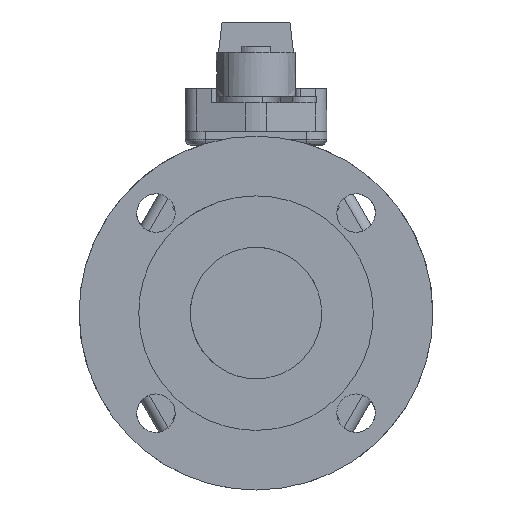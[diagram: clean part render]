
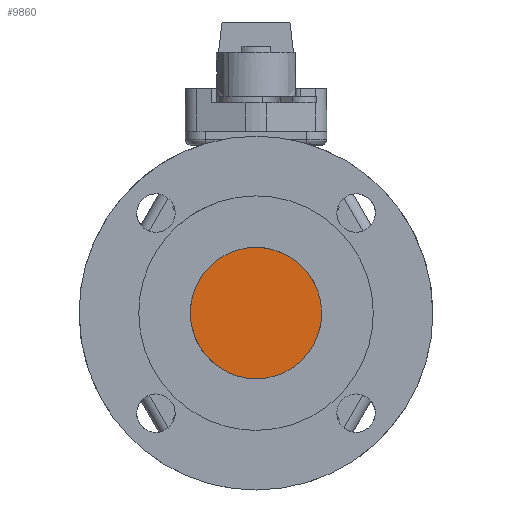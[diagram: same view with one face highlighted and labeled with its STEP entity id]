
A CAD part, left-side view. The second image highlights one B-rep face of the part: STEP entity #9860.
In plain terms, the highlighted free-form (B-spline) face has degree [1, 1] with [2, 2] control points.
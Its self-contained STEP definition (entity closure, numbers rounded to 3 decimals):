
#2900=CARTESIAN_POINT('',(-37.,-22.78,23.181));
#2901=VERTEX_POINT('',#2900);
#2907=CARTESIAN_POINT('',(-37.,-32.5,0.));
#2908=VERTEX_POINT('',#2907);
#2909=CARTESIAN_POINT('',(-37.,-22.78,23.181));
#2910=CARTESIAN_POINT('',(-37.,-24.122,21.862));
#2911=CARTESIAN_POINT('',(-37.,-26.577,18.99));
#2912=CARTESIAN_POINT('',(-37.,-29.184,14.575));
#2913=CARTESIAN_POINT('',(-37.,-31.004,10.081));
#2914=CARTESIAN_POINT('',(-37.,-32.196,5.377));
#2915=CARTESIAN_POINT('',(-37.,-32.5,1.882));
#2916=CARTESIAN_POINT('',(-37.,-32.5,0.));
#2917=B_SPLINE_CURVE_WITH_KNOTS('',3,(#2909,#2910,#2911,#2912,#2913,#2914,#2915,#2916),.UNSPECIFIED.,.F.,.U.,(4,1,1,1,1,4),(0.,5.646,11.292,15.324,20.163,25.809),.UNSPECIFIED.);
#2918=EDGE_CURVE('',#2901,#2908,#2917,.T.);
#2920=CARTESIAN_POINT('',(-37.,0.,-32.5));
#2921=VERTEX_POINT('',#2920);
#2922=CARTESIAN_POINT('',(-37.,-32.5,0.));
#2923=CARTESIAN_POINT('',(-37.,-32.5,-1.595));
#2924=CARTESIAN_POINT('',(-37.,-32.255,-4.919));
#2925=CARTESIAN_POINT('',(-37.,-31.024,-10.247));
#2926=CARTESIAN_POINT('',(-37.,-28.761,-15.526));
#2927=CARTESIAN_POINT('',(-37.,-25.944,-19.742));
#2928=CARTESIAN_POINT('',(-37.,-22.946,-23.133));
#2929=CARTESIAN_POINT('',(-37.,-19.551,-26.135));
#2930=CARTESIAN_POINT('',(-37.,-15.605,-28.634));
#2931=CARTESIAN_POINT('',(-37.,-11.113,-30.658));
#2932=CARTESIAN_POINT('',(-37.,-6.115,-32.107));
#2933=CARTESIAN_POINT('',(-37.,-2.127,-32.5));
#2934=CARTESIAN_POINT('',(-37.,0.,-32.5));
#2935=B_SPLINE_CURVE_WITH_KNOTS('',3,(#2922,#2923,#2924,#2925,#2926,#2927,#2928,#2929,#2930,#2931,#2932,#2933,#2934),.UNSPECIFIED.,.F.,.U.,(4,1,1,1,1,1,1,1,1,1,4),(0.,4.786,9.971,16.352,21.936,25.127,29.913,35.497,39.086,44.67,51.051),.UNSPECIFIED.);
#2936=EDGE_CURVE('',#2908,#2921,#2935,.T.);
#2938=CARTESIAN_POINT('',(-37.,22.78,-23.181));
#2939=VERTEX_POINT('',#2938);
#2940=CARTESIAN_POINT('',(-37.,0.,-32.5));
#2941=CARTESIAN_POINT('',(-37.,1.972,-32.5));
#2942=CARTESIAN_POINT('',(-37.,6.047,-32.128));
#2943=CARTESIAN_POINT('',(-37.,12.015,-30.418));
#2944=CARTESIAN_POINT('',(-37.,17.776,-27.467));
#2945=CARTESIAN_POINT('',(-37.,21.186,-24.747));
#2946=CARTESIAN_POINT('',(-37.,22.78,-23.181));
#2947=B_SPLINE_CURVE_WITH_KNOTS('',3,(#2940,#2941,#2942,#2943,#2944,#2945,#2946),.UNSPECIFIED.,.F.,.U.,(4,1,1,1,4),(0.,5.916,12.227,18.537,25.242),.UNSPECIFIED.);
#2948=EDGE_CURVE('',#2921,#2939,#2947,.T.);
#2989=CARTESIAN_POINT('',(-37.,32.5,0.));
#2990=VERTEX_POINT('',#2989);
#2991=CARTESIAN_POINT('',(-37.,22.78,-23.181));
#2992=CARTESIAN_POINT('',(-37.,24.506,-21.485));
#2993=CARTESIAN_POINT('',(-37.,26.723,-18.755));
#2994=CARTESIAN_POINT('',(-37.,29.269,-14.32));
#2995=CARTESIAN_POINT('',(-37.,31.042,-10.094));
#2996=CARTESIAN_POINT('',(-37.,32.239,-5.108));
#2997=CARTESIAN_POINT('',(-37.,32.5,-1.613));
#2998=CARTESIAN_POINT('',(-37.,32.5,0.));
#2999=B_SPLINE_CURVE_WITH_KNOTS('',3,(#2991,#2992,#2993,#2994,#2995,#2996,#2997,#2998),.UNSPECIFIED.,.F.,.U.,(4,1,1,1,1,4),(0.,7.259,10.485,15.324,20.97,25.809),.UNSPECIFIED.);
#3000=EDGE_CURVE('',#2939,#2990,#2999,.T.);
#3002=CARTESIAN_POINT('',(-37.,0.,32.5));
#3003=VERTEX_POINT('',#3002);
#3004=CARTESIAN_POINT('',(-37.,32.5,0.));
#3005=CARTESIAN_POINT('',(-37.,32.5,13.462));
#3006=CARTESIAN_POINT('',(-37.,22.981,22.981));
#3007=CARTESIAN_POINT('',(-37.,13.462,32.5));
#3008=CARTESIAN_POINT('',(-37.,0.,32.5));
#3016=(BOUNDED_CURVE()B_SPLINE_CURVE(2,(#3004,#3005,#3006,#3007,#3008),.UNSPECIFIED.,.F.,.U.)B_SPLINE_CURVE_WITH_KNOTS((3,2,3),(0.,0.5,1.),.UNSPECIFIED.)CURVE()GEOMETRIC_REPRESENTATION_ITEM()RATIONAL_B_SPLINE_CURVE((1.,0.924,1.,0.924,1.))REPRESENTATION_ITEM(''));
#3017=EDGE_CURVE('',#2990,#3003,#3016,.T.);
#3019=CARTESIAN_POINT('',(-37.,0.,32.5));
#3020=CARTESIAN_POINT('',(-37.,-1.709,32.5));
#3021=CARTESIAN_POINT('',(-37.,-5.259,32.219));
#3022=CARTESIAN_POINT('',(-37.,-10.254,30.983));
#3023=CARTESIAN_POINT('',(-37.,-14.381,29.235));
#3024=CARTESIAN_POINT('',(-37.,-18.603,26.808));
#3025=CARTESIAN_POINT('',(-37.,-21.186,24.747));
#3026=CARTESIAN_POINT('',(-37.,-22.78,23.181));
#3027=B_SPLINE_CURVE_WITH_KNOTS('',3,(#3019,#3020,#3021,#3022,#3023,#3024,#3025,#3026),.UNSPECIFIED.,.F.,.U.,(4,1,1,1,1,4),(0.,5.127,10.649,15.382,18.537,25.242),.UNSPECIFIED.);
#3028=EDGE_CURVE('',#3003,#2901,#3027,.T.);
#9847=CARTESIAN_POINT('',(-37.,-35.747,-35.747));
#9848=CARTESIAN_POINT('',(-37.,-35.747,35.747));
#9849=CARTESIAN_POINT('',(-37.,35.747,-35.747));
#9850=CARTESIAN_POINT('',(-37.,35.747,35.747));
#9851=B_SPLINE_SURFACE_WITH_KNOTS('',1,1,((#9847,#9849),(#9848,#9850)),.UNSPECIFIED.,.F.,.F.,.U.,(2,2),(2,2),(0.,71.494),(0.,71.494),.UNSPECIFIED.);
#9852=ORIENTED_EDGE('',*,*,#3017,.F.);
#9853=ORIENTED_EDGE('',*,*,#3000,.F.);
#9854=ORIENTED_EDGE('',*,*,#2948,.F.);
#9855=ORIENTED_EDGE('',*,*,#2936,.F.);
#9856=ORIENTED_EDGE('',*,*,#2918,.F.);
#9857=ORIENTED_EDGE('',*,*,#3028,.F.);
#9858=EDGE_LOOP('',(#9852,#9853,#9854,#9855,#9856,#9857));
#9859=FACE_OUTER_BOUND('',#9858,.T.);
#9860=ADVANCED_FACE('',(#9859),#9851,.T.);
